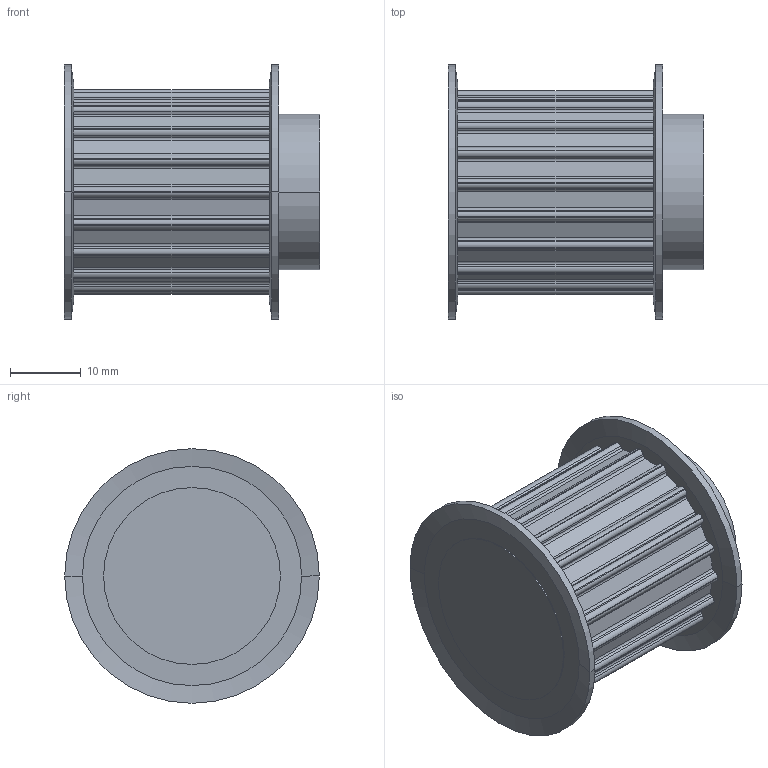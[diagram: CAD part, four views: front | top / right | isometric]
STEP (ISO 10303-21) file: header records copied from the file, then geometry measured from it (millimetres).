
FILE_DESCRIPTION( ( '' ), '1' );
FILE_NAME( 'C:/Users/Stangenbergd/Documents/CAD_Step/1/16641900.stp', '2021-10-19T09:37:51', ( '' ), ( '' ), ' ', ' ', ' ' );
FILE_SCHEMA( ( 'CONFIG_CONTROL_DESIGN' ) );
Length unit declared in the file: millimetre
Products named in the file (1): 1
Bounding box: 36.2 x 36 x 36 mm (x, y, z)
Volume: 20957.7 mm3; surface area: 6525.5 mm2
Topology: 1 solids, 1 shells, 178 faces, 505 edges, 334 vertices
Faces by surface type: cylinder 106, plane 64, cone 8
Entity records: 5909 total; most frequent: DIRECTION 1083, CARTESIAN_POINT 1018, ORIENTED_EDGE 1010, EDGE_CURVE 505, AXIS2_PLACEMENT_3D 399, VERTEX_POINT 334, LINE 285, VECTOR 285
